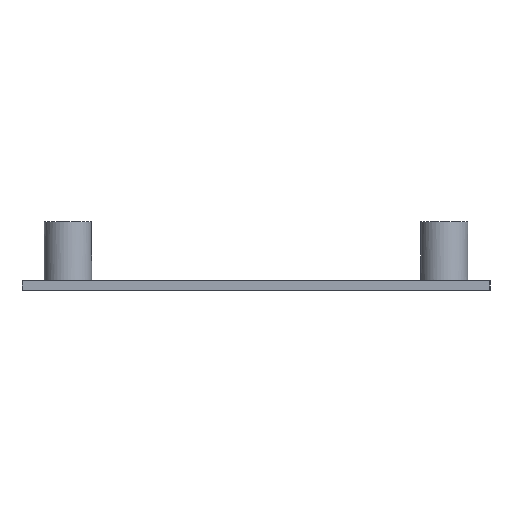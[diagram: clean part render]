
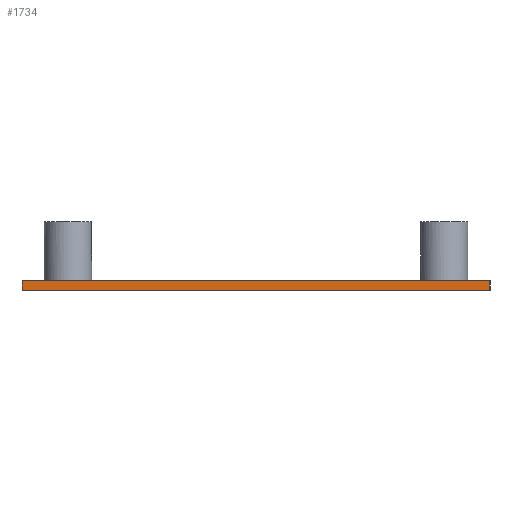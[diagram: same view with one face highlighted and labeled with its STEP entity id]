
A CAD part, left-side view. The second image highlights one B-rep face of the part: STEP entity #1734.
In plain terms, the highlighted planar face has unit normal (-1, 0, 0).
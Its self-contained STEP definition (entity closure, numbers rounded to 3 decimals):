
#63 = PLANE('',#64);
#64 = AXIS2_PLACEMENT_3D('',#65,#66,#67);
#65 = CARTESIAN_POINT('',(-51.047,118.6,-16.248));
#66 = DIRECTION('',(0.,0.,1.));
#67 = DIRECTION('',(1.,0.,-0.));
#195 = PLANE('',#196);
#196 = AXIS2_PLACEMENT_3D('',#197,#198,#199);
#197 = CARTESIAN_POINT('',(-58.,117.6,-14.848));
#198 = DIRECTION('',(0.,0.,1.));
#199 = DIRECTION('',(1.,0.,-0.));
#240 = EDGE_CURVE('',#241,#243,#245,.T.);
#241 = VERTEX_POINT('',#242);
#242 = CARTESIAN_POINT('',(-58.,111.85,-16.248));
#243 = VERTEX_POINT('',#244);
#244 = CARTESIAN_POINT('',(-58.,180.85,-16.248));
#245 = SURFACE_CURVE('',#246,(#250,#257),.PCURVE_S1.);
#246 = LINE('',#247,#248);
#247 = CARTESIAN_POINT('',(-58.,111.85,-16.248));
#248 = VECTOR('',#249,1.);
#249 = DIRECTION('',(0.,1.,0.));
#250 = PCURVE('',#63,#251);
#251 = DEFINITIONAL_REPRESENTATION('',(#252),#256);
#252 = LINE('',#253,#254);
#253 = CARTESIAN_POINT('',(-6.953,-6.75));
#254 = VECTOR('',#255,1.);
#255 = DIRECTION('',(0.,1.));
#256 = ( GEOMETRIC_REPRESENTATION_CONTEXT(2) 
PARAMETRIC_REPRESENTATION_CONTEXT() REPRESENTATION_CONTEXT('2D SPACE',''
  ) );
#257 = PCURVE('',#258,#263);
#258 = PLANE('',#259);
#259 = AXIS2_PLACEMENT_3D('',#260,#261,#262);
#260 = CARTESIAN_POINT('',(-58.,117.6,-16.248));
#261 = DIRECTION('',(1.,0.,0.));
#262 = DIRECTION('',(0.,0.,1.));
#263 = DEFINITIONAL_REPRESENTATION('',(#264),#268);
#264 = LINE('',#265,#266);
#265 = CARTESIAN_POINT('',(0.,5.75));
#266 = VECTOR('',#267,1.);
#267 = DIRECTION('',(0.,-1.));
#268 = ( GEOMETRIC_REPRESENTATION_CONTEXT(2) 
PARAMETRIC_REPRESENTATION_CONTEXT() REPRESENTATION_CONTEXT('2D SPACE',''
  ) );
#286 = PLANE('',#287);
#287 = AXIS2_PLACEMENT_3D('',#288,#289,#290);
#288 = CARTESIAN_POINT('',(-58.,111.85,-16.248));
#289 = DIRECTION('',(0.,1.,0.));
#290 = DIRECTION('',(0.,-0.,1.));
#340 = PLANE('',#341);
#341 = AXIS2_PLACEMENT_3D('',#342,#343,#344);
#342 = CARTESIAN_POINT('',(-58.,180.85,-16.248));
#343 = DIRECTION('',(0.,1.,0.));
#344 = DIRECTION('',(0.,-0.,1.));
#1583 = VERTEX_POINT('',#1584);
#1584 = CARTESIAN_POINT('',(-58.,111.85,-14.848));
#1631 = VERTEX_POINT('',#1632);
#1632 = CARTESIAN_POINT('',(-58.,180.85,-14.848));
#1653 = EDGE_CURVE('',#1631,#1583,#1654,.T.);
#1654 = SURFACE_CURVE('',#1655,(#1659,#1666),.PCURVE_S1.);
#1655 = LINE('',#1656,#1657);
#1656 = CARTESIAN_POINT('',(-58.,180.85,-14.848));
#1657 = VECTOR('',#1658,1.);
#1658 = DIRECTION('',(0.,-1.,0.));
#1659 = PCURVE('',#195,#1660);
#1660 = DEFINITIONAL_REPRESENTATION('',(#1661),#1665);
#1661 = LINE('',#1662,#1663);
#1662 = CARTESIAN_POINT('',(0.,63.25));
#1663 = VECTOR('',#1664,1.);
#1664 = DIRECTION('',(0.,-1.));
#1665 = ( GEOMETRIC_REPRESENTATION_CONTEXT(2) 
PARAMETRIC_REPRESENTATION_CONTEXT() REPRESENTATION_CONTEXT('2D SPACE',''
  ) );
#1666 = PCURVE('',#258,#1667);
#1667 = DEFINITIONAL_REPRESENTATION('',(#1668),#1672);
#1668 = LINE('',#1669,#1670);
#1669 = CARTESIAN_POINT('',(1.4,-63.25));
#1670 = VECTOR('',#1671,1.);
#1671 = DIRECTION('',(0.,1.));
#1672 = ( GEOMETRIC_REPRESENTATION_CONTEXT(2) 
PARAMETRIC_REPRESENTATION_CONTEXT() REPRESENTATION_CONTEXT('2D SPACE',''
  ) );
#1734 = ADVANCED_FACE('',(#1735),#258,.F.);
#1735 = FACE_BOUND('',#1736,.F.);
#1736 = EDGE_LOOP('',(#1737,#1758,#1759,#1780));
#1737 = ORIENTED_EDGE('',*,*,#1738,.F.);
#1738 = EDGE_CURVE('',#241,#1583,#1739,.T.);
#1739 = SURFACE_CURVE('',#1740,(#1744,#1751),.PCURVE_S1.);
#1740 = LINE('',#1741,#1742);
#1741 = CARTESIAN_POINT('',(-58.,111.85,-16.248));
#1742 = VECTOR('',#1743,1.);
#1743 = DIRECTION('',(0.,0.,1.));
#1744 = PCURVE('',#258,#1745);
#1745 = DEFINITIONAL_REPRESENTATION('',(#1746),#1750);
#1746 = LINE('',#1747,#1748);
#1747 = CARTESIAN_POINT('',(0.,5.75));
#1748 = VECTOR('',#1749,1.);
#1749 = DIRECTION('',(1.,0.));
#1750 = ( GEOMETRIC_REPRESENTATION_CONTEXT(2) 
PARAMETRIC_REPRESENTATION_CONTEXT() REPRESENTATION_CONTEXT('2D SPACE',''
  ) );
#1751 = PCURVE('',#286,#1752);
#1752 = DEFINITIONAL_REPRESENTATION('',(#1753),#1757);
#1753 = LINE('',#1754,#1755);
#1754 = CARTESIAN_POINT('',(0.,0.));
#1755 = VECTOR('',#1756,1.);
#1756 = DIRECTION('',(1.,0.));
#1757 = ( GEOMETRIC_REPRESENTATION_CONTEXT(2) 
PARAMETRIC_REPRESENTATION_CONTEXT() REPRESENTATION_CONTEXT('2D SPACE',''
  ) );
#1758 = ORIENTED_EDGE('',*,*,#240,.T.);
#1759 = ORIENTED_EDGE('',*,*,#1760,.T.);
#1760 = EDGE_CURVE('',#243,#1631,#1761,.T.);
#1761 = SURFACE_CURVE('',#1762,(#1766,#1773),.PCURVE_S1.);
#1762 = LINE('',#1763,#1764);
#1763 = CARTESIAN_POINT('',(-58.,180.85,-16.248));
#1764 = VECTOR('',#1765,1.);
#1765 = DIRECTION('',(0.,0.,1.));
#1766 = PCURVE('',#258,#1767);
#1767 = DEFINITIONAL_REPRESENTATION('',(#1768),#1772);
#1768 = LINE('',#1769,#1770);
#1769 = CARTESIAN_POINT('',(0.,-63.25));
#1770 = VECTOR('',#1771,1.);
#1771 = DIRECTION('',(1.,0.));
#1772 = ( GEOMETRIC_REPRESENTATION_CONTEXT(2) 
PARAMETRIC_REPRESENTATION_CONTEXT() REPRESENTATION_CONTEXT('2D SPACE',''
  ) );
#1773 = PCURVE('',#340,#1774);
#1774 = DEFINITIONAL_REPRESENTATION('',(#1775),#1779);
#1775 = LINE('',#1776,#1777);
#1776 = CARTESIAN_POINT('',(0.,0.));
#1777 = VECTOR('',#1778,1.);
#1778 = DIRECTION('',(1.,0.));
#1779 = ( GEOMETRIC_REPRESENTATION_CONTEXT(2) 
PARAMETRIC_REPRESENTATION_CONTEXT() REPRESENTATION_CONTEXT('2D SPACE',''
  ) );
#1780 = ORIENTED_EDGE('',*,*,#1653,.T.);
